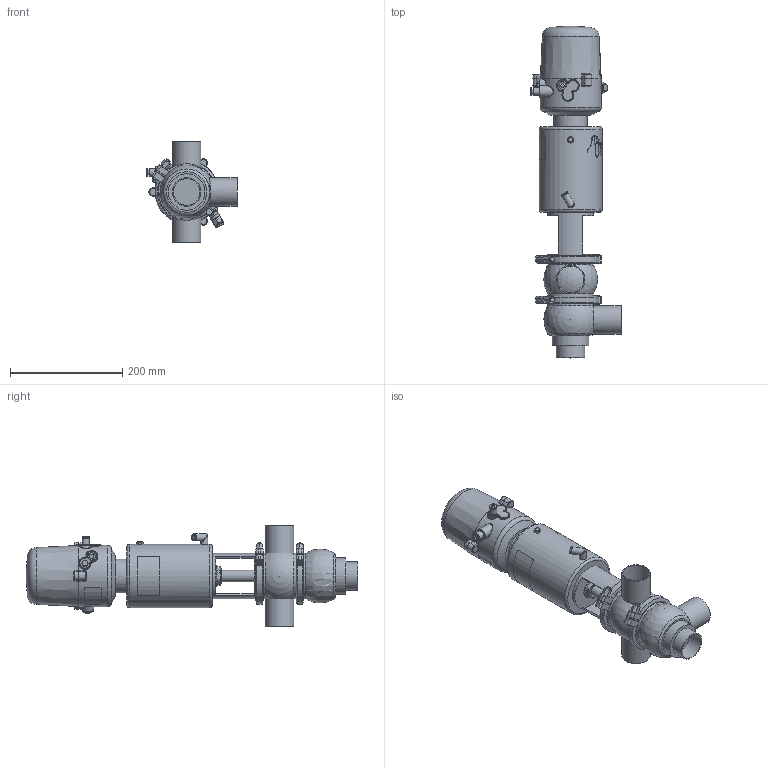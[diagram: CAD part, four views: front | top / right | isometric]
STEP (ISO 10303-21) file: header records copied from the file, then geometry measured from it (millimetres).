
FILE_DESCRIPTION (( 'STEP AP214' ), '1' );
FILE_NAME ('INNOVA K E W OD 2 T2 AS NC & C-TOP S_10.240.16.0076.STEP', '2024-08-06T09:18:38', ( '' ), ( '' ), 'SwSTEP 2.0', 'SolidWorks 2023', '' );
FILE_SCHEMA (( 'AUTOMOTIVE_DESIGN' ));
Length unit declared in the file: millimetre
Products named in the file (8): 10.426.15.0001_C-TOP S - 1 EV; INNOVA K E W OD 2 T2 AS NC & C-TOP S_10.240.16.0076; 10.240.15.0002_OD 2"; 10.240.15.0010_DN 050; 10.240.15.0014_T2 AS P0; 10.240.15.0007_OD 2"; 10.240.15.0017_Estàndard; 10.240.15.0001_DN 050
Assembly tree (8 placements, depth 2):
  INNOVA K E W OD 2 T2 AS NC & C-TOP S_10.240.16.0076
    10.240.15.0007_OD 2"
    10.240.15.0002_OD 2"
    10.240.15.0010_DN 050
    10.240.15.0014_T2 AS P0
    10.240.15.0017_Estàndard
    10.426.15.0001_C-TOP S - 1 EV
    10.240.15.0001_DN 050  x2
Bounding box: 161 x 592 x 180 mm (x, y, z)
Volume: 4112339 mm3; surface area: 366617.1 mm2
Topology: 8 solids, 8 shells, 1176 faces, 2836 edges, 1888 vertices
Faces by surface type: plane 411, cylinder 358, cone 201, bspline 160, torus 37, sphere 9
Full cylindrical faces by diameter (mm): 0.371 x17, 0.512 x16, 0.658 x16, 0.795 x16, 0.94 x15, 1.098 x15, 1.241 x13, 1.382 x13, 1.523 x11, 1.669 x10, 2.201 x1, 4 x2, 5.5 x2, 6 x2, 6.15 x1, 8 x6, 8.5 x1, 10 x1, 10.5 x1, 11 x2, 12.5 x3, 13 x2, 13.5 x2, 16 x1, 17 x3, 20 x3, 20.5 x1, 22 x2, 31 x1, 34.5 x3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
Entity records: 58120 total; most frequent: CARTESIAN_POINT 27855, ORIENTED_EDGE 4518, DIRECTION 3663, EDGE_CURVE 2259, VERTEX_POINT 1609, EDGE_LOOP 1578, AXIS2_PLACEMENT_3D 1503, FACE_OUTER_BOUND 1337
